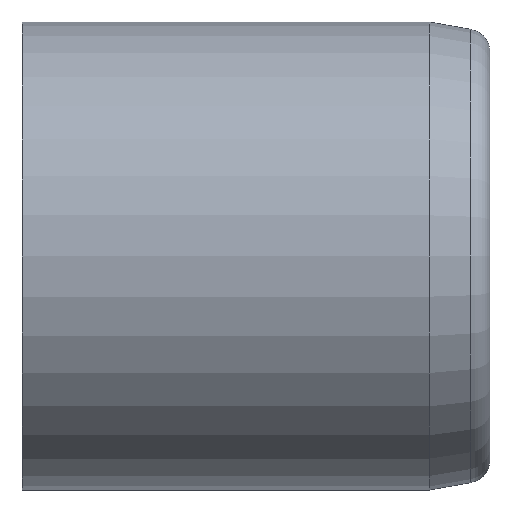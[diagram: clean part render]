
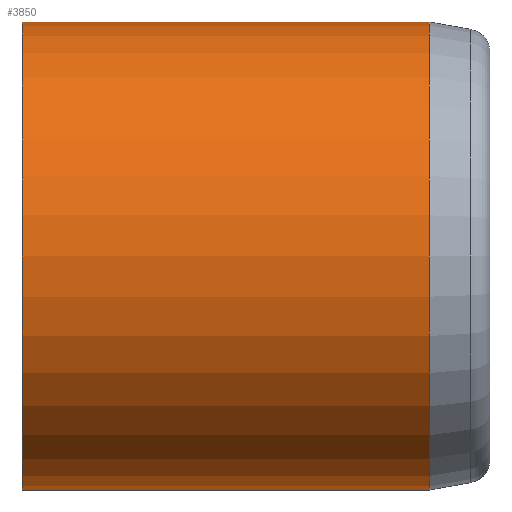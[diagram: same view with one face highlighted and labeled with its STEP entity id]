
A CAD part, left-side view. The second image highlights one B-rep face of the part: STEP entity #3850.
In plain terms, the highlighted cylindrical face has radius 10 mm (diameter 20 mm), a partial arc.
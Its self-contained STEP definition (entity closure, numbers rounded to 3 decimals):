
#144 = VERTEX_POINT ( 'NONE', #5631 ) ;
#1160 = CARTESIAN_POINT ( 'NONE',  ( 0., 2.73, 0. ) ) ;
#1439 = VERTEX_POINT ( 'NONE', #5329 ) ;
#1511 = AXIS2_PLACEMENT_3D ( 'NONE', #1160, #6646, #10401 ) ;
#1652 = EDGE_CURVE ( 'NONE', #144, #8862, #10486, .T. ) ;
#1983 = VECTOR ( 'NONE', #8094, 1000. ) ;
#2368 = LINE ( 'NONE', #5310, #1983 ) ;
#2391 = ORIENTED_EDGE ( 'NONE', *, *, #5124, .F. ) ;
#2801 = CYLINDRICAL_SURFACE ( 'NONE', #8671, 10. ) ;
#3850 = ADVANCED_FACE ( 'NONE', ( #8401 ), #2801, .T. ) ;
#4164 = ORIENTED_EDGE ( 'NONE', *, *, #4518, .F. ) ;
#4297 = AXIS2_PLACEMENT_3D ( 'NONE', #7065, #4307, #6008 ) ;
#4307 = DIRECTION ( 'NONE',  ( 0., -1., 0. ) ) ;
#4432 = ORIENTED_EDGE ( 'NONE', *, *, #1652, .T. ) ;
#4518 = EDGE_CURVE ( 'NONE', #144, #1439, #6429, .T. ) ;
#4960 = CARTESIAN_POINT ( 'NONE',  ( 0., -9.8, 10. ) ) ;
#5124 = EDGE_CURVE ( 'NONE', #1439, #10259, #2368, .T. ) ;
#5310 = CARTESIAN_POINT ( 'NONE',  ( 0., -9.8, -10. ) ) ;
#5329 = CARTESIAN_POINT ( 'NONE',  ( 0., 2.73, -10. ) ) ;
#5553 = CARTESIAN_POINT ( 'NONE',  ( 0., -9.8, 0. ) ) ;
#5631 = CARTESIAN_POINT ( 'NONE',  ( 0., 2.73, 10. ) ) ;
#6008 = DIRECTION ( 'NONE',  ( 0., 0., 1. ) ) ;
#6429 = CIRCLE ( 'NONE', #1511, 10. ) ;
#6646 = DIRECTION ( 'NONE',  ( 0., -1., 0. ) ) ;
#6853 = DIRECTION ( 'NONE',  ( 0., 1., 0. ) ) ;
#7065 = CARTESIAN_POINT ( 'NONE',  ( 0., 20.13, 0. ) ) ;
#7404 = DIRECTION ( 'NONE',  ( 0., 1., 0. ) ) ;
#7430 = EDGE_CURVE ( 'NONE', #8862, #10259, #9598, .T. ) ;
#8094 = DIRECTION ( 'NONE',  ( 0., 1., 0. ) ) ;
#8395 = EDGE_LOOP ( 'NONE', ( #2391, #4164, #4432, #11870 ) ) ;
#8401 = FACE_OUTER_BOUND ( 'NONE', #8395, .T. ) ;
#8671 = AXIS2_PLACEMENT_3D ( 'NONE', #5553, #7404, #12149 ) ;
#8862 = VERTEX_POINT ( 'NONE', #11370 ) ;
#9146 = CARTESIAN_POINT ( 'NONE',  ( 0., 20.13, -10. ) ) ;
#9598 = CIRCLE ( 'NONE', #4297, 10. ) ;
#10259 = VERTEX_POINT ( 'NONE', #9146 ) ;
#10401 = DIRECTION ( 'NONE',  ( 0., 0., -1. ) ) ;
#10486 = LINE ( 'NONE', #4960, #10500 ) ;
#10500 = VECTOR ( 'NONE', #6853, 1000. ) ;
#11370 = CARTESIAN_POINT ( 'NONE',  ( 0., 20.13, 10. ) ) ;
#11870 = ORIENTED_EDGE ( 'NONE', *, *, #7430, .T. ) ;
#12149 = DIRECTION ( 'NONE',  ( 0., 0., 1. ) ) ;
